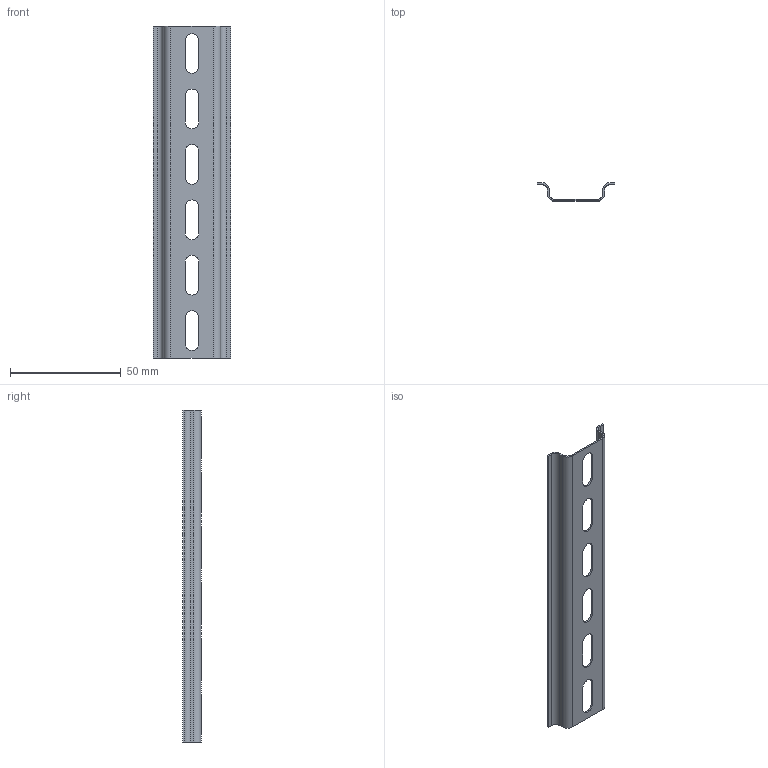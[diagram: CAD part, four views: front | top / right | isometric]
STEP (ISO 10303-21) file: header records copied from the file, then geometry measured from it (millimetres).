
FILE_DESCRIPTION (( 'STEP AP214' ), '1' );
FILE_NAME ('DIN-ðåéêà 150ìì õ 0,8 ìì.STEP', '2025-10-22T12:44:36', ( '' ), ( '' ), 'SwSTEP 2.0', 'SolidWorks 2018', '' );
FILE_SCHEMA (( 'AUTOMOTIVE_DESIGN' ));
Length unit declared in the file: millimetre
Products named in the file (1): DIN-ðåéêà 150ìì õ 0,8 ìì
Bounding box: 35.2 x 8.3 x 150 mm (x, y, z)
Volume: 4937.1 mm3; surface area: 12860.6 mm2
Topology: 1 solids, 1 shells, 68 faces, 166 edges, 100 vertices
Faces by surface type: plane 42, cylinder 26
Entity records: 2024 total; most frequent: DIRECTION 356, CARTESIAN_POINT 335, ORIENTED_EDGE 332, EDGE_CURVE 166, AXIS2_PLACEMENT_3D 121, LINE 114, VECTOR 114, VERTEX_POINT 100
